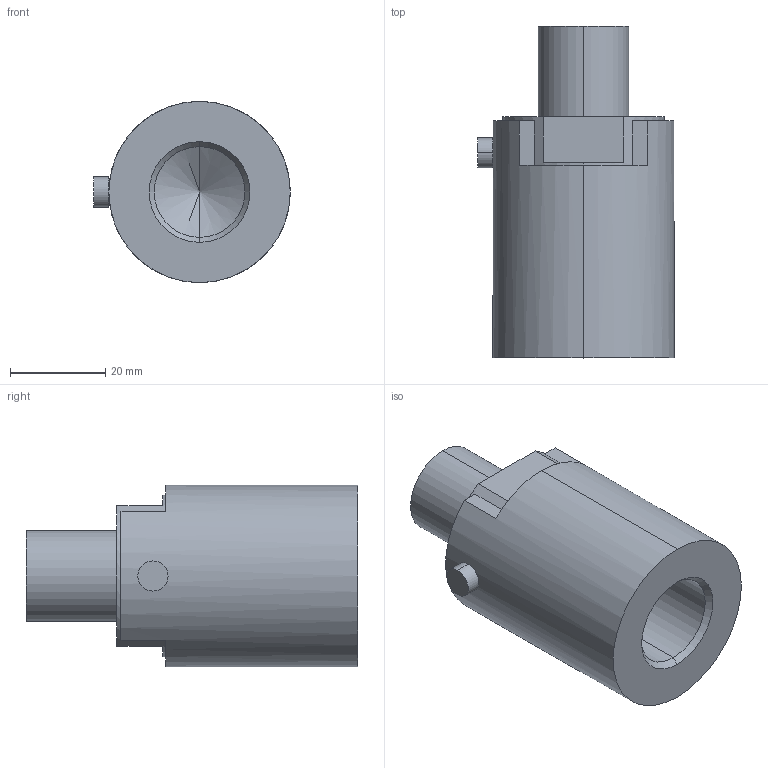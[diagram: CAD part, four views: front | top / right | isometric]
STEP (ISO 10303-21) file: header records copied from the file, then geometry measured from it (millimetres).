
FILE_DESCRIPTION (( 'STEP AP214' ), '1' );
FILE_NAME ('SS1199-10KLB.STEP', '2024-08-28T19:45:55', ( '' ), ( '' ), 'SwSTEP 2.0', 'SolidWorks 2008', '' );
FILE_SCHEMA (( 'AUTOMOTIVE_DESIGN' ));
Length unit declared in the file: inch
Products named in the file (1): SS1199-10KLB
Bounding box: 41.27 x 69.72 x 38.1 mm (x, y, z)
Volume: 53763 mm3; surface area: 11088.5 mm2
Topology: 2 solids, 2 shells, 31 faces, 74 edges, 47 vertices
Faces by surface type: plane 17, cylinder 10, cone 4
Entity records: 934 total; most frequent: DIRECTION 170, CARTESIAN_POINT 151, ORIENTED_EDGE 144, EDGE_CURVE 72, AXIS2_PLACEMENT_3D 66, VERTEX_POINT 47, VECTOR 38, LINE 38
